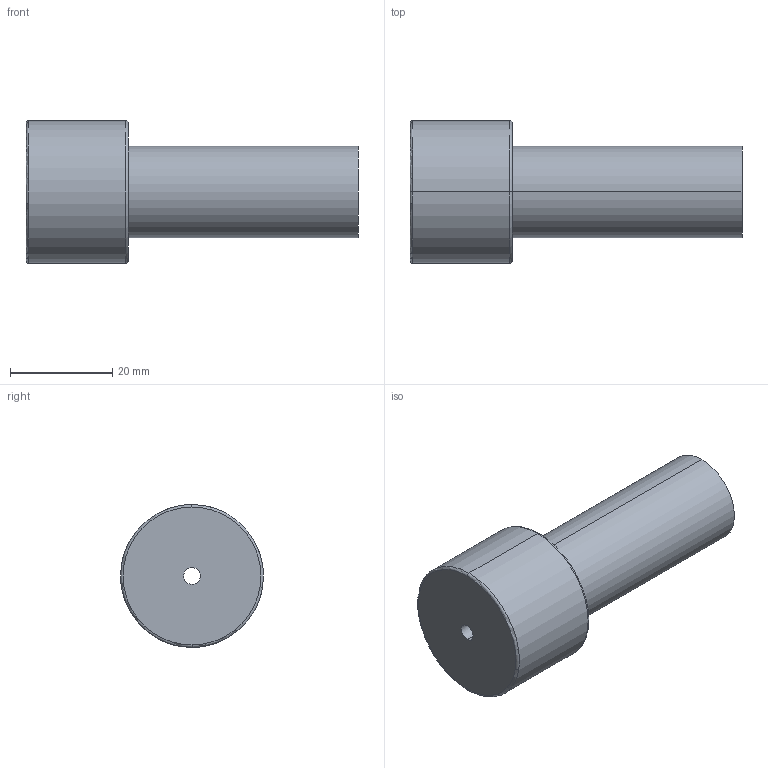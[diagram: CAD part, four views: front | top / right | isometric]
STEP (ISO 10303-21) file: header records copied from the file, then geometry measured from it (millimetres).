
FILE_DESCRIPTION(('CATIA V5 STEP Exchange'),'2;1');
FILE_NAME('C:\Users\Utente\Desktop\IO LAVORO\3D X SITO CF\X SITO\PLASTICA\3D files 367\367-18X65.stp','2021-03-24T15:47:14+00:00',('none'),('none'),'CATIA Version 5 Release 20 GA (IN-10)','CATIA V5 STEP AP203','none');
FILE_SCHEMA(('CONFIG_CONTROL_DESIGN'));
Length unit declared in the file: millimetre
Products named in the file (1): 367-18X65
Bounding box: 65 x 28 x 28 mm (x, y, z)
Volume: 22430.1 mm3; surface area: 6475.4 mm2
Topology: 1 solids, 1 shells, 13 faces, 42 edges, 32 vertices
Faces by surface type: torus 4, cylinder 4, plane 3, cone 2
Entity records: 608 total; most frequent: CARTESIAN_POINT 194, ORIENTED_EDGE 84, DIRECTION 60, AXIS2_PLACEMENT_3D 42, EDGE_CURVE 42, VERTEX_POINT 32, CIRCLE 28, EDGE_LOOP 16
